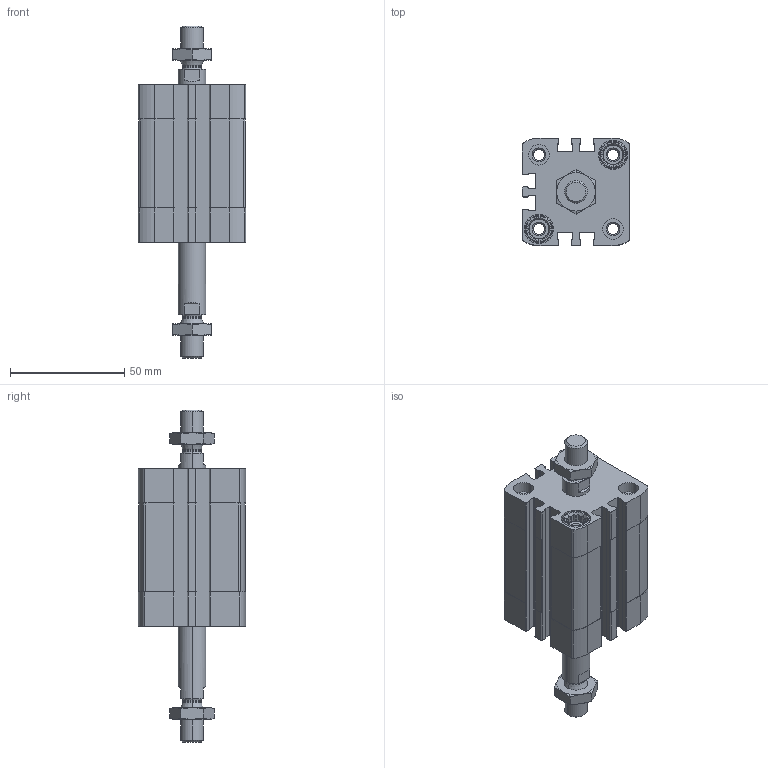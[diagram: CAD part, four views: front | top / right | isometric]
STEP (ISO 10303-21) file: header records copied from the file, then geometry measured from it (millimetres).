
FILE_DESCRIPTION (( 'STEP AP203' ), '1' );
FILE_NAME ('CCN32-25-P.STEP', '2020-06-22T18:46:50', ( '' ), ( '' ), 'SwSTEP 2.0', 'SolidWorks 2019', '' );
FILE_SCHEMA (( 'CONFIG_CONTROL_DESIGN' ));
Length unit declared in the file: millimetre
Products named in the file (1): CCN32-25-P
Bounding box: 47 x 47 x 145.5 mm (x, y, z)
Volume: 116090.2 mm3; surface area: 44386.7 mm2
Topology: 4 solids, 4 shells, 536 faces, 1416 edges, 920 vertices
Faces by surface type: plane 288, cylinder 180, cone 60, torus 8
Entity records: 17371 total; most frequent: CARTESIAN_POINT 3741, DIRECTION 2898, ORIENTED_EDGE 2832, EDGE_CURVE 1416, AXIS2_PLACEMENT_3D 1069, VERTEX_POINT 920, LINE 760, VECTOR 760
